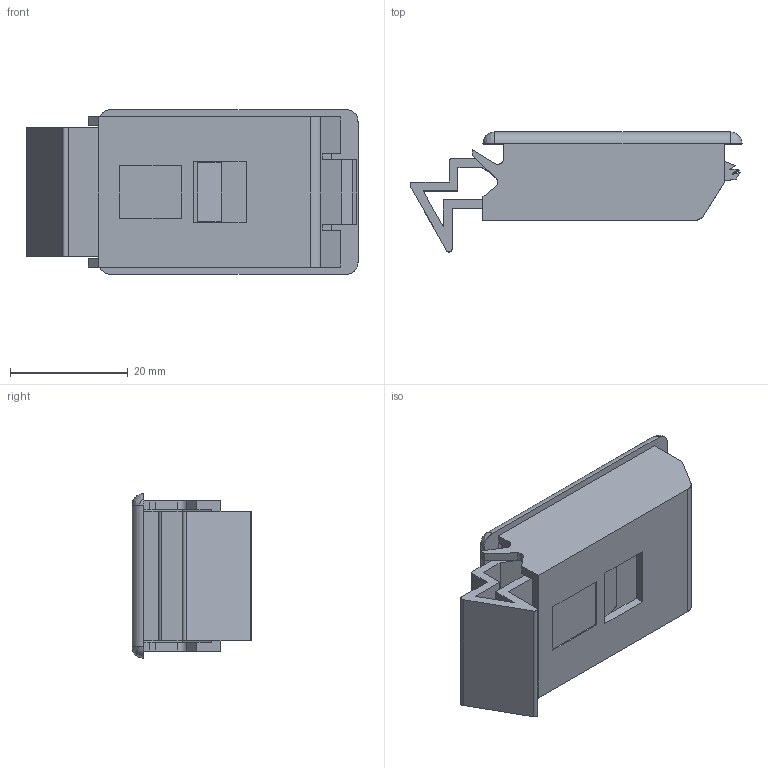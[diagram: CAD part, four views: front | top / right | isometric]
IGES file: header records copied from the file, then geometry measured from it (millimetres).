
Start section: SolidWorks IGES file using analytic representation for surfaces
Global section: file name: Z:\SOLIDWORKS\G\D_cad\Darshana07\updated 01-02-2007\sw models\Locks & Latches\SLIDE LATCH\B-46-1 DPLS-2538.IGS; native system: SolidWorks 2010; preprocessor: SolidWorks 2010; author: mdk; date: 110308.161051; units: millimetre
Bounding box: 56.39 x 20.35 x 28 mm (x, y, z)
Surface area: 10944.6 mm2 (no closed solid volume)
Topology: 0 solids, 0 shells, 103 faces, 812 edges, 810 vertices
Faces by surface type: bspline 89, revolution 14
